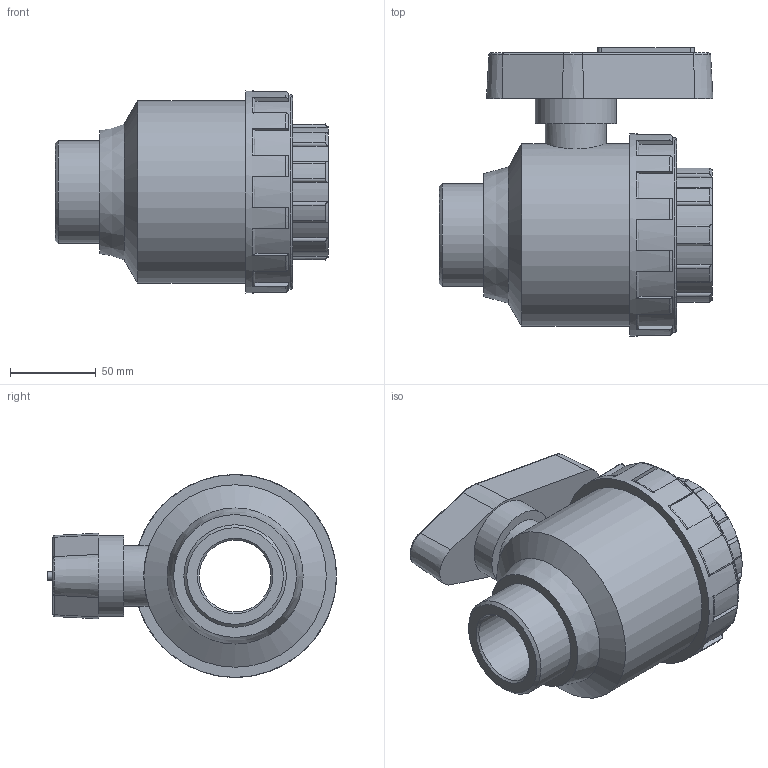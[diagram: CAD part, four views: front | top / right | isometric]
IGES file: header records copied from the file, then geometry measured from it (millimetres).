
Global section: file name: 11361020.ipt; native system: Autodesk Inventor 2015; preprocessor: unknown; author: KIM; date: 20171207.170509; units: millimetre
Bounding box: 159.39 x 168.18 x 118 mm (x, y, z)
Volume: 1014597.5 mm3; surface area: 105765.6 mm2
Topology: 1 solids, 1 shells, 168 faces, 450 edges, 292 vertices
Faces by surface type: plane 65, cylinder 52, revolution 34, cone 17
Full cylindrical faces by diameter (mm): 35.4 x1, 47.2 x1, 59.614 x1, 106.2 x1, 113.28 x1, 118 x1
